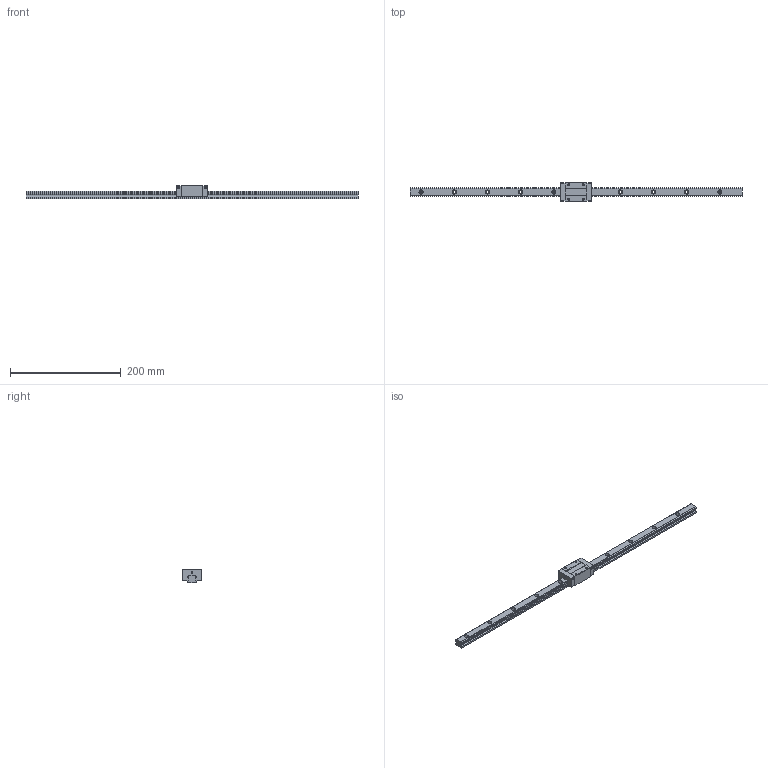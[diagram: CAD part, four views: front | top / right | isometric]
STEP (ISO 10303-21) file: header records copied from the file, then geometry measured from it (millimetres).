
FILE_DESCRIPTION (( 'STEP AP203' ), '1' );
FILE_NAME ('TRS15VN-XN.STEP', '2024-06-12T07:37:04', ( '' ), ( '' ), 'SwSTEP 2.0', 'SolidWorks 2022', '' );
FILE_SCHEMA (( 'CONFIG_CONTROL_DESIGN' ));
Length unit declared in the file: millimetre
Products named in the file (1): TRS15VN-XN
Bounding box: 600 x 34 x 24 mm (x, y, z)
Volume: 132558.3 mm3; surface area: 46014.2 mm2
Topology: 2 solids, 2 shells, 204 faces, 528 edges, 340 vertices
Faces by surface type: cylinder 96, plane 92, cone 16
Entity records: 6319 total; most frequent: DIRECTION 1130, CARTESIAN_POINT 1065, ORIENTED_EDGE 1040, EDGE_CURVE 520, AXIS2_PLACEMENT_3D 405, VERTEX_POINT 340, VECTOR 320, LINE 320
